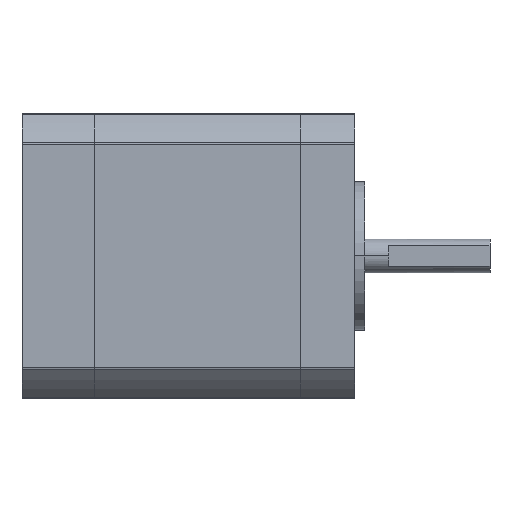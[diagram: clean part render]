
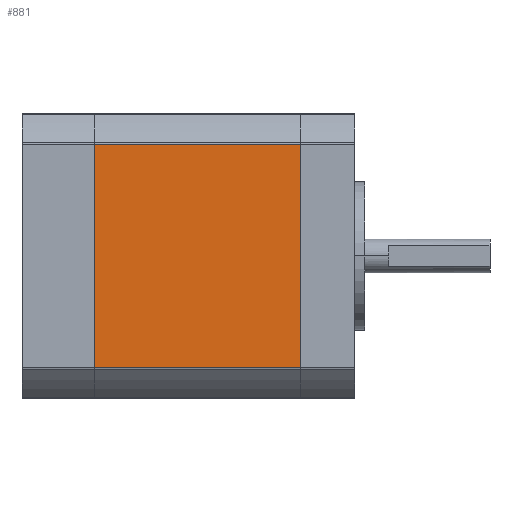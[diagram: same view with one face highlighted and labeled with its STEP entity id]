
A CAD part, left-side view. The second image highlights one B-rep face of the part: STEP entity #881.
In plain terms, the highlighted planar face has unit normal (-1, 0, 0).
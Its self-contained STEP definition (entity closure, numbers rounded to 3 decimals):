
#191 = LINE ( 'NONE', #3073, #10809 ) ;
#881 = ADVANCED_FACE ( 'NONE', ( #8798 ), #14667, .F. ) ;
#1865 = DIRECTION ( 'NONE',  ( 0., 0., 1. ) ) ;
#2260 = ORIENTED_EDGE ( 'NONE', *, *, #3959, .T. ) ;
#2314 = LINE ( 'NONE', #13091, #12363 ) ;
#3073 = CARTESIAN_POINT ( 'NONE',  ( -21.09, 30.5, -16.523 ) ) ;
#3454 = VECTOR ( 'NONE', #4012, 1000. ) ;
#3959 = EDGE_CURVE ( 'NONE', #8120, #10194, #191, .T. ) ;
#4012 = DIRECTION ( 'NONE',  ( 0., 0., 1. ) ) ;
#4511 = DIRECTION ( 'NONE',  ( 0., -1., 0. ) ) ;
#4525 = DIRECTION ( 'NONE',  ( 0., 0., -1. ) ) ;
#4606 = CARTESIAN_POINT ( 'NONE',  ( -21.09, 0., -16.523 ) ) ;
#4660 = CARTESIAN_POINT ( 'NONE',  ( -21.09, 30.5, -16.523 ) ) ;
#4977 = EDGE_CURVE ( 'NONE', #10194, #18882, #12807, .T. ) ;
#7963 = LINE ( 'NONE', #12646, #18349 ) ;
#8120 = VERTEX_POINT ( 'NONE', #4660 ) ;
#8798 = FACE_OUTER_BOUND ( 'NONE', #15021, .T. ) ;
#9698 = ORIENTED_EDGE ( 'NONE', *, *, #4977, .T. ) ;
#9840 = EDGE_CURVE ( 'NONE', #8120, #11171, #7963, .T. ) ;
#10194 = VERTEX_POINT ( 'NONE', #4606 ) ;
#10809 = VECTOR ( 'NONE', #4511, 1000. ) ;
#11171 = VERTEX_POINT ( 'NONE', #15076 ) ;
#11184 = CARTESIAN_POINT ( 'NONE',  ( -21.09, 0., -16.523 ) ) ;
#12363 = VECTOR ( 'NONE', #18954, 1000. ) ;
#12646 = CARTESIAN_POINT ( 'NONE',  ( -21.09, 30.5, -16.523 ) ) ;
#12807 = LINE ( 'NONE', #11184, #3454 ) ;
#13091 = CARTESIAN_POINT ( 'NONE',  ( -21.09, 30.5, 16.523 ) ) ;
#14475 = CARTESIAN_POINT ( 'NONE',  ( -21.09, 30.5, -16.523 ) ) ;
#14667 = PLANE ( 'NONE',  #18680 ) ;
#15021 = EDGE_LOOP ( 'NONE', ( #9698, #18883, #17817, #2260 ) ) ;
#15076 = CARTESIAN_POINT ( 'NONE',  ( -21.09, 30.5, 16.523 ) ) ;
#15953 = EDGE_CURVE ( 'NONE', #11171, #18882, #2314, .T. ) ;
#17546 = DIRECTION ( 'NONE',  ( 1., 0., 0. ) ) ;
#17817 = ORIENTED_EDGE ( 'NONE', *, *, #9840, .F. ) ;
#18349 = VECTOR ( 'NONE', #1865, 1000. ) ;
#18560 = CARTESIAN_POINT ( 'NONE',  ( -21.09, 0., 16.523 ) ) ;
#18680 = AXIS2_PLACEMENT_3D ( 'NONE', #14475, #17546, #4525 ) ;
#18882 = VERTEX_POINT ( 'NONE', #18560 ) ;
#18883 = ORIENTED_EDGE ( 'NONE', *, *, #15953, .F. ) ;
#18954 = DIRECTION ( 'NONE',  ( 0., -1., 0. ) ) ;
